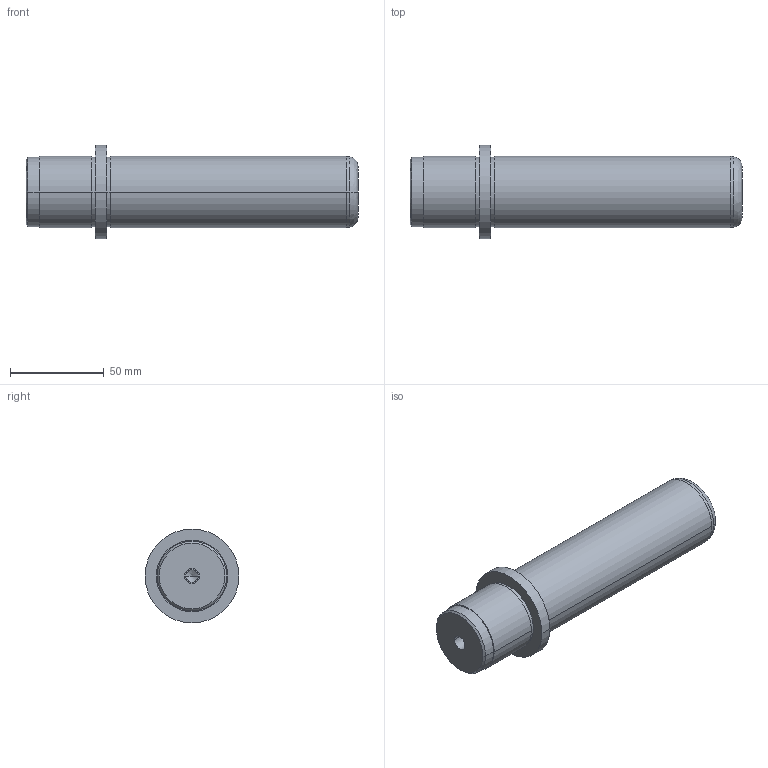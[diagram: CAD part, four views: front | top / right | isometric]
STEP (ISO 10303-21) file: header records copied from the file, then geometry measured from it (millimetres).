
FILE_DESCRIPTION( ( 'STEP AP203' ), '1' );
FILE_NAME( 'D:/Delta 3 D/D00/D00 - 38x140x37.step', '2003-01-02T07:07:09', ( ' ' ), ( ' ' ), 'XStep 1.0', ' ', ' ' );
FILE_SCHEMA( ( 'CONFIG_CONTROL_DESIGN' ) );
Length unit declared in the file: metre
Products named in the file (1): 1
Bounding box: 177 x 50 x 50 mm (x, y, z)
Volume: 202091.6 mm3; surface area: 26300.8 mm2
Topology: 1 solids, 1 shells, 39 faces, 78 edges, 48 vertices
Faces by surface type: revolution 28, bspline 11
Entity records: 1137 total; most frequent: CARTESIAN_POINT 277, DIRECTION 154, ORIENTED_EDGE 152, EDGE_CURVE 76, AXIS2_PLACEMENT_3D 49, EDGE_LOOP 48, VERTEX_POINT 48, CIRCLE 48
